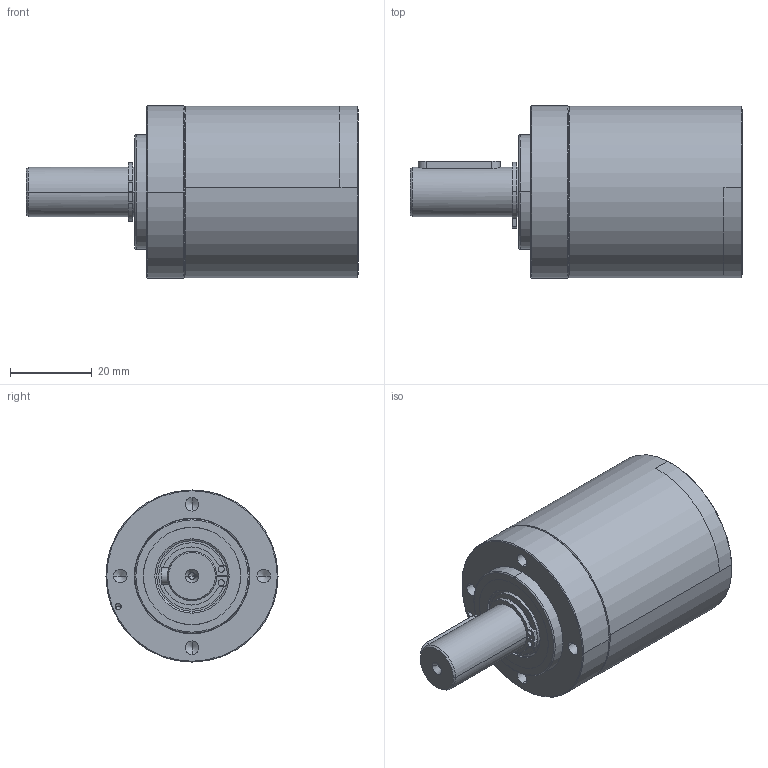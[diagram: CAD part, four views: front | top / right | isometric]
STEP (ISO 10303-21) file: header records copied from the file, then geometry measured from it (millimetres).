
FILE_DESCRIPTION (( 'STEP AP214' ), '1' );
FILE_NAME ('PGx42 - 2 Stage (1).STEP', '2025-05-12T10:25:33', ( '' ), ( '' ), 'SwSTEP 2.0', 'SolidWorks 2023', '' );
FILE_SCHEMA (( 'AUTOMOTIVE_DESIGN' ));
Length unit declared in the file: millimetre
Products named in the file (1): PGx42 - 2 Stage (1)
Bounding box: 81.05 x 42 x 42 mm (x, y, z)
Volume: 68284.2 mm3; surface area: 18942.4 mm2
Topology: 7 solids, 9 shells, 189 faces, 420 edges, 256 vertices
Faces by surface type: cylinder 88, plane 42, cone 35, torus 24
Entity records: 5882 total; most frequent: DIRECTION 1016, CARTESIAN_POINT 1008, ORIENTED_EDGE 816, AXIS2_PLACEMENT_3D 432, EDGE_CURVE 408, VERTEX_POINT 256, CIRCLE 242, EDGE_LOOP 224
